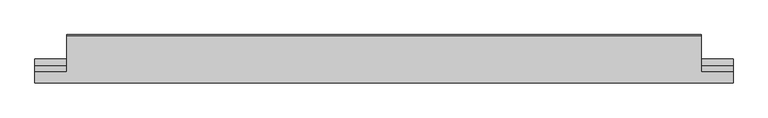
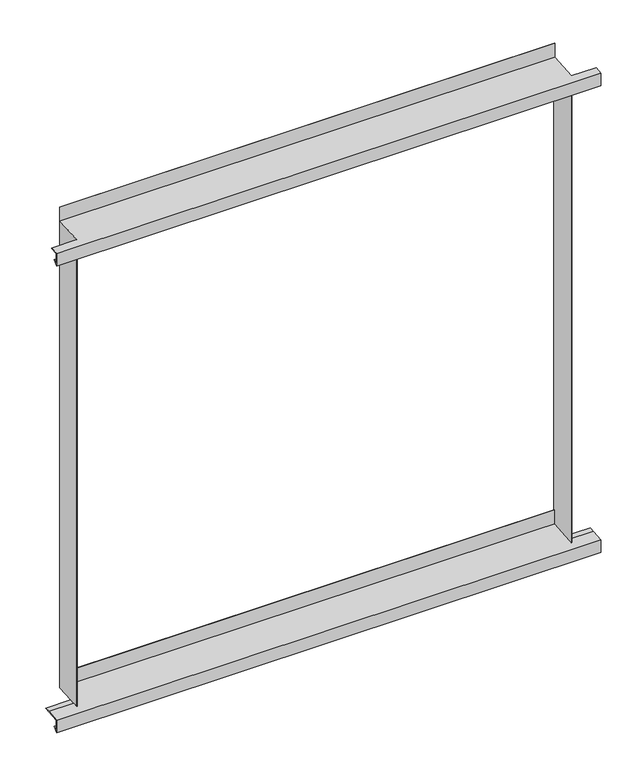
"""IFC4 building model written with IfcOpenShell, lengths in millimetres: plate geometry, ATELIERS 3S_EPURE CDB_Entourage de baie : ATELIERS 3S_EPURE CDB_Entourage de baie."""

from ifc_helpers import new_model, si_unit, origin, place, context, project, spatial, faceted_brep, source, transform, mapped, element, save


def plate_dfabe72b(model_context):
    return source(origin(), model_context, "Body", "Brep", [
        faceted_brep([(550.0, -75.0, -3.2370806), (550.0, -38.0, 0.0), (550.0, -49.4737132, 0.0), (550.0, -76.0, -2.3207494), (550.0, -76.0, -29.0836688), (550.0, -67.5147186, -20.5983875), (550.0, -68.22457, -19.8885361), (550.0, -75.0, -26.663966), (550.0, -75.0, 993.4383502), (550.0, -59.0, 994.8381689), (550.0, -59.0, 995.8419887), (550.0, -76.0, 994.3546814), (550.0, -76.0, 967.591762), (550.0, -67.5147186, 976.0770433), (550.0, -68.22457, 976.7868947), (550.0, -75.0, 970.0114648), (-550.0, -76.0, -2.3207494), (-550.0, -49.4737132, 0.0), (-550.0, -38.0, 0.0), (-550.0, -75.0, -3.2370806), (-550.0, -75.0, -26.663966), (-550.0, -68.22457, -19.8885361), (-550.0, -67.5147186, -20.5983875), (-550.0, -76.0, -29.0836688), (-550.0, -76.0, 994.3546814), (-550.0, -59.0, 995.8419887), (-550.0, -59.0, 994.8381689), (-550.0, -75.0, 993.4383502), (-550.0, -75.0, 970.0114648), (-550.0, -68.22457, 976.7868947), (-550.0, -67.5147186, 976.0770433), (-550.0, -76.0, 967.591762), (499.0, -1.0, 4.2409004), (499.0, -1.0, 33.3245692), (-499.0, -1.0, 33.3245692), (-499.0, -1.0, 4.2409004), (-499.0, 0.0, 33.3245692), (499.0, 0.0, 33.3245692), (500.0, -59.0, 995.8419887), (500.0, -1.0, 1000.9163312), (-500.0, -1.0, 1000.9163312), (-500.0, -59.0, 995.8419887), (500.0, -1.0, 1030.0), (-500.0, -1.0, 1030.0), (500.0, 0.0, 1030.0), (-500.0, 0.0, 1030.0), (-500.0, -59.0, 994.8381689), (-500.0, -60.0, 994.7506802), (-499.0, -60.0, 994.7506802), (-499.0, 0.0, 1000.0), (499.0, 0.0, 1000.0), (499.0, -60.0, 994.7506802), (500.0, -60.0, 994.7506802), (500.0, -59.0, 994.8381689), (500.0, -49.4737132, 0.0), (500.0, -60.0, -0.9209308), (499.0, -60.0, -0.9209308), (-499.0, -60.0, -0.9209308), (-500.0, -60.0, -0.9209308), (-500.0, -49.4737132, 0.0), (-500.0, 0.0, 3.3245692), (-500.0, -38.0, 0.0), (500.0, 0.0, 3.3245692), (500.0, -38.0, 0.0)], [[[0, 1, 2, 3, 4, 5, 6, 7]], [[8, 9, 10, 11, 12, 13, 14, 15]], [[16, 17, 18, 19, 20, 21, 22, 23]], [[24, 25, 26, 27, 28, 29, 30, 31]], [[7, 20, 19, 0]], [[6, 21, 20, 7]], [[5, 22, 21, 6]], [[4, 23, 22, 5]], [[3, 16, 23, 4]], [[32, 33, 34, 35]], [[36, 34, 33, 37]], [[15, 28, 27, 8]], [[14, 29, 28, 15]], [[13, 30, 29, 14]], [[12, 31, 30, 13]], [[11, 24, 31, 12]], [[11, 10, 38, 39, 40, 41, 25, 24]], [[39, 42, 43, 40]], [[42, 44, 45, 43]], [[27, 26, 46, 47, 48, 49, 50, 51, 52, 53, 9, 8]], [[3, 2, 54, 55, 56, 32, 35, 57, 58, 59, 17, 16]], [[48, 47, 58, 57]], [[47, 46, 41, 40, 43, 45, 60, 61, 59, 58]], [[45, 44, 62, 60], [49, 36, 37, 50]], [[57, 35, 34, 36, 49, 48]], [[52, 51, 56, 55]], [[51, 50, 37, 33, 32, 56]], [[55, 54, 63, 62, 44, 42, 39, 38, 53, 52]], [[62, 63, 1, 0, 19, 18, 61, 60]], [[1, 63, 54, 2]], [[17, 59, 61, 18]], [[38, 10, 9, 53]], [[46, 26, 25, 41]]]),
    ])


if __name__ == "__main__":
    model = new_model("IFC4")
    model_context = context("Model", 3, world=origin())
    ifc_project = project(units=[si_unit("LENGTHUNIT", "METRE", prefix="MILLI")], contexts=[model_context])
    site = spatial("IfcSite", under=ifc_project)
    building = spatial("IfcBuilding", under=site)
    placement = place(None, origin())
    plate_shape = plate_dfabe72b(model_context)
    element("IfcPlate", 1, ObjectType="ATELIERS 3S_EPURE CDB_Entourage de baie : ATELIERS 3S_EPURE CDB_Entourage de baie", at=placement, inside=building, context=model_context, shape_type="MappedRepresentation", body=[
        mapped(plate_shape, transform((0.0, 0.0, 0.0), x_axis=(1.0, 0.0, 0.0), y_axis=(0.0, 1.0, 0.0), z_axis=(0.0, 0.0, 1.0))),
    ])
    save(model, "model.ifc")
